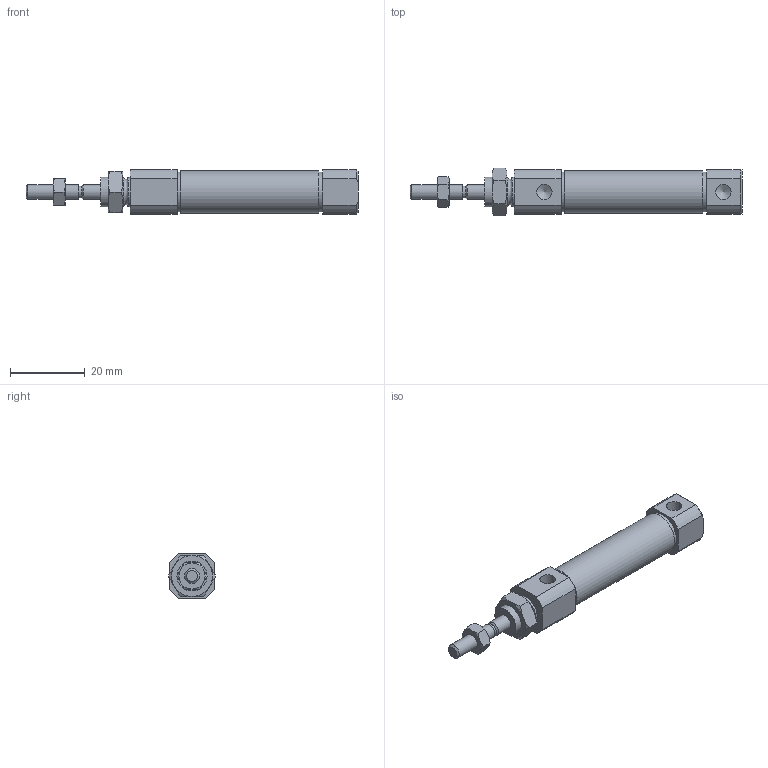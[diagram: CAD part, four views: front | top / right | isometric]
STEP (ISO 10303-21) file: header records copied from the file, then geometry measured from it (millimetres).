
FILE_DESCRIPTION((''),'2;1');
FILE_NAME('I:\3D電子目錄\氣缸\SBA\SBA\SBA10.stp','2007-10-04T11:11:03',('66-2f-008'),(''),'Autodesk Inventor 11','Autodesk Inventor 11','');
FILE_SCHEMA(('AUTOMOTIVE_DESIGN { 1 0 10303 214 1 1 1 1 }'));
Length unit declared in the file: millimetre
Products named in the file (1): SBA10
Bounding box: 89 x 12.7 x 12 mm (x, y, z)
Volume: 7615 mm3; surface area: 3554.8 mm2
Topology: 1 solids, 1 shells, 88 faces, 192 edges, 117 vertices
Faces by surface type: plane 35, cone 30, cylinder 18, bspline 5
Full cylindrical faces by diameter (mm): 3.2 x1, 4 x3, 8 x3, 10.7 x2, 11.3 x1
Entity records: 2363 total; most frequent: CARTESIAN_POINT 637, DIRECTION 352, ORIENTED_EDGE 342, EDGE_CURVE 171, AXIS2_PLACEMENT_3D 153, EDGE_LOOP 116, VERTEX_POINT 113, FACE_OUTER_BOUND 88
